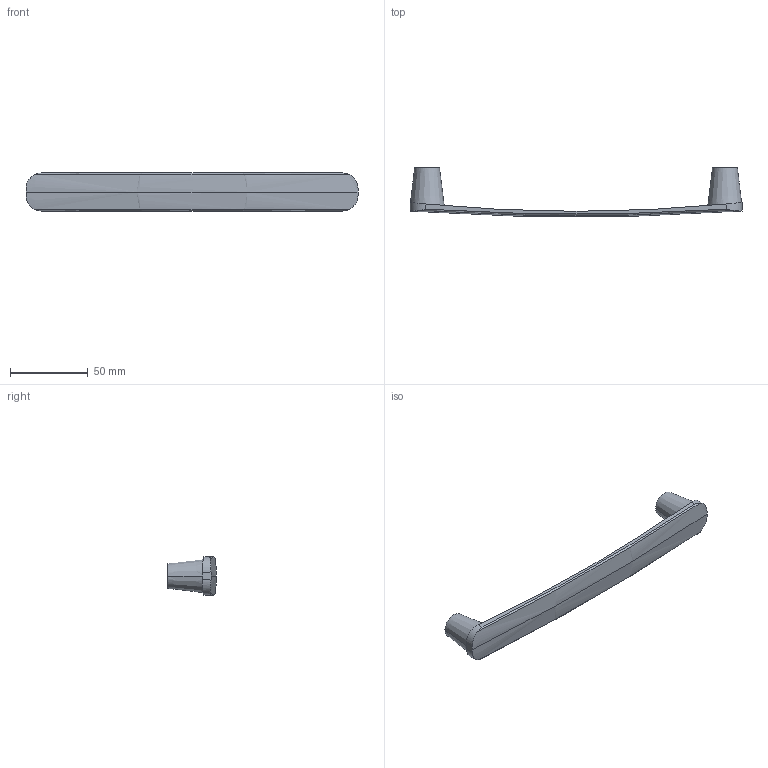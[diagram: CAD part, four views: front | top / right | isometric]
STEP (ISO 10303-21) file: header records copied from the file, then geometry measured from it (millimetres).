
FILE_DESCRIPTION( ( '' ), '1' );
FILE_NAME( 'C:/Documents and Settings/Sachin/Desktop/Sheet 10_1/stp/9132311.stp', '2013-10-22T12:44:55', ( '' ), ( '' ), ' ', ' ', ' ' );
FILE_SCHEMA( ( 'CONFIG_CONTROL_DESIGN' ) );
Length unit declared in the file: millimetre
Products named in the file (1): 1
Bounding box: 214 x 31.39 x 24.5 mm (x, y, z)
Volume: 30981 mm3; surface area: 16876 mm2
Topology: 1 solids, 1 shells, 43 faces, 95 edges, 62 vertices
Faces by surface type: cone 16, plane 14, cylinder 9, torus 4
Entity records: 1594 total; most frequent: CARTESIAN_POINT 591, DIRECTION 206, ORIENTED_EDGE 190, EDGE_CURVE 95, AXIS2_PLACEMENT_3D 87, VERTEX_POINT 62, EDGE_LOOP 51, ADVANCED_FACE 43
